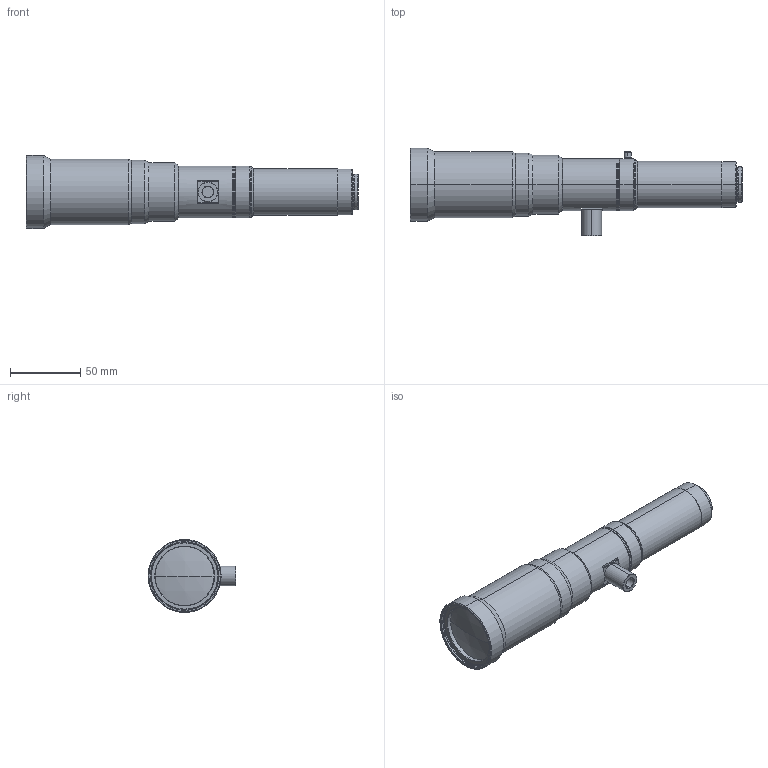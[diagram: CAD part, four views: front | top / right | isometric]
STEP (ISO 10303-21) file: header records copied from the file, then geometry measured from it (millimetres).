
FILE_DESCRIPTION (( 'STEP AP203' ), '1' );
FILE_NAME ('VS-THV1-150CO_S.STEP', '2018-03-22T10:45:58', ( '' ), ( '' ), 'SwSTEP 2.0', 'SolidWorks 2017', '' );
FILE_SCHEMA (( 'CONFIG_CONTROL_DESIGN' ));
Length unit declared in the file: millimetre
Products named in the file (1): VS-THV1-150CO_S
Bounding box: 236.47 x 62.5 x 52 mm (x, y, z)
Volume: 259049.4 mm3; surface area: 43180.7 mm2
Topology: 2 solids, 2 shells, 186 faces, 380 edges, 224 vertices
Faces by surface type: cone 84, cylinder 60, plane 38, sphere 4
Entity records: 4973 total; most frequent: DIRECTION 958, CARTESIAN_POINT 823, ORIENTED_EDGE 760, AXIS2_PLACEMENT_3D 393, EDGE_CURVE 380, VERTEX_POINT 224, EDGE_LOOP 214, CIRCLE 206
